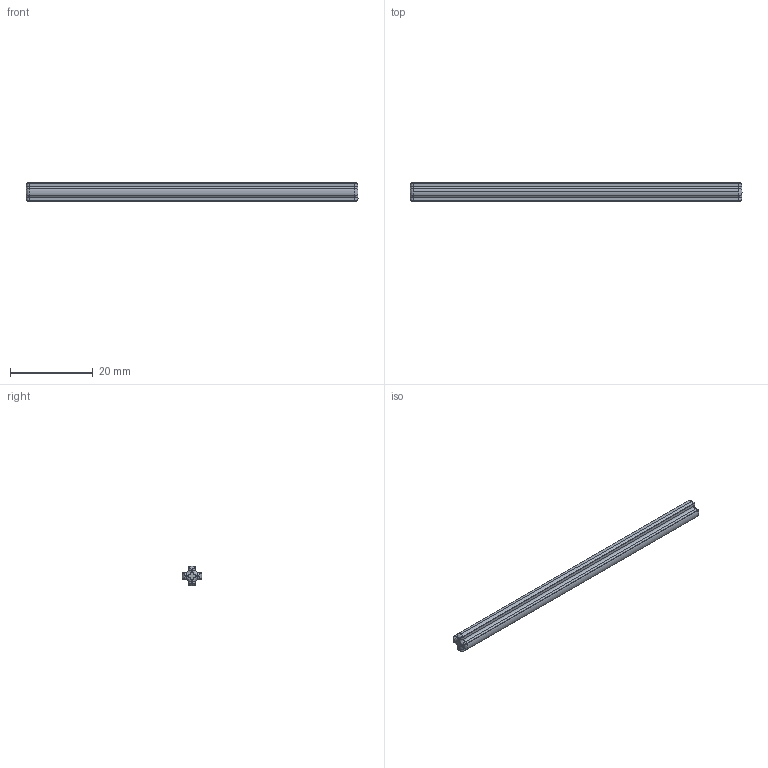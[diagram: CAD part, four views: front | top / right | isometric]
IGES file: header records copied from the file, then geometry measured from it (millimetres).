
Start section: SolidWorks IGES file using analytic representation for surfaces
Global section: file name: C:\Users\PC\Desktop\Lego Technik Gear and Axles\Axles\STEP, IGES, STL\3737 Black Technic Axle 10.IGS; native system: SolidWorks 2014; preprocessor: SolidWorks 2014; author: PC; date: 150218.233554; units: millimetre
Bounding box: 80 x 4.79 x 4.8 mm (x, y, z)
Surface area: 1374.2 mm2 (no closed solid volume)
Topology: 0 solids, 0 shells, 77 faces, 490 edges, 474 vertices
Faces by surface type: bspline 44, revolution 33
